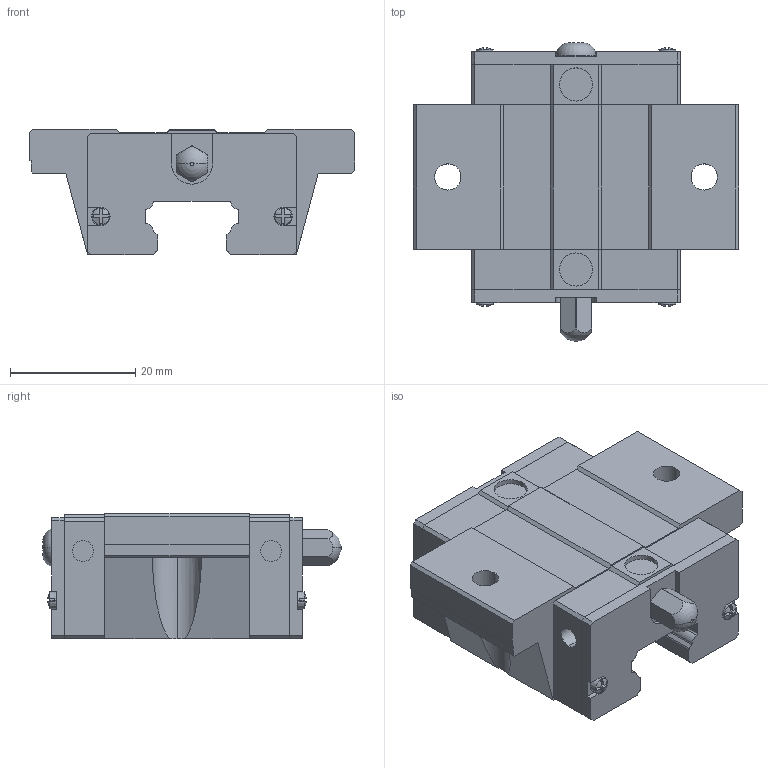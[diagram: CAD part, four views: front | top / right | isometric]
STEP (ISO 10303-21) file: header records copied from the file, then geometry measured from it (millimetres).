
FILE_DESCRIPTION(('no description'),'unknown implementation level');
FILE_NAME('QEW15SC_Z0_H_SS_22.stp',' ',('HIWIN GmbH'),('CADClick - KiM GmbH - www.kimweb.de'),'unknown preprocess','ACIS','unknown authorization');
FILE_SCHEMA(('automotive_design'));
Length unit declared in the file: millimetre
Products named in the file (1): QEW15SC Z0 H SS
Bounding box: 52 x 47.69 x 20 mm (x, y, z)
Volume: 25241.6 mm3; surface area: 8024.2 mm2
Topology: 1 solids, 4 shells, 288 faces, 783 edges, 515 vertices
Faces by surface type: plane 194, cylinder 70, cone 20, sphere 2, torus 2
Entity records: 17870 total; most frequent: CARTESIAN_POINT 1779, STYLED_ITEM 1587, PRESENTATION_STYLE_ASSIGNMENT 1587, COLOUR_RGB 1587, ORIENTED_EDGE 1566, DIRECTION 1472, EDGE_CURVE 783, CURVE_STYLE 783
